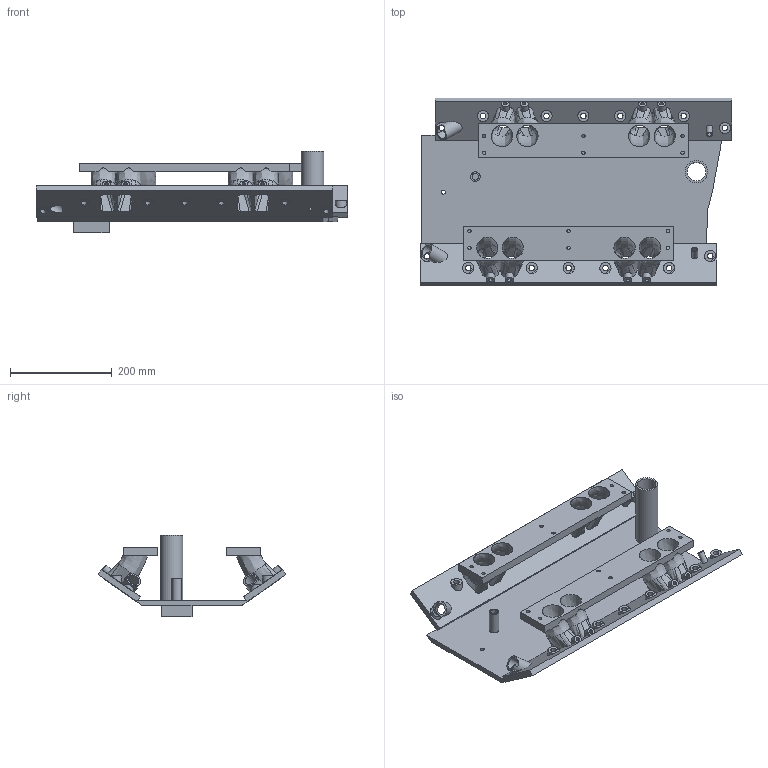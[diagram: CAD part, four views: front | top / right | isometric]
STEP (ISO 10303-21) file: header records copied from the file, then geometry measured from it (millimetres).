
FILE_DESCRIPTION(('Open CASCADE Model'),'2;1');
FILE_NAME('Open CASCADE Shape Model','2026-09-28T11:54:17',('Author'),( 'Open CASCADE'),'Open CASCADE STEP processor 8.0','build123d', 'Unknown');
FILE_SCHEMA(('AUTOMOTIVE_DESIGN { 1 0 10303 214 1 1 1 1 }'));
Length unit declared in the file: millimetre
Products named in the file (1): SOLID
Bounding box: 612 x 369.55 x 161 mm (x, y, z)
Volume: 3355385.1 mm3; surface area: 847592.1 mm2
Topology: 1 solids, 1 shells, 334 faces, 1038 edges, 686 vertices
Faces by surface type: bspline 168, plane 91, cylinder 75
Full cylindrical faces by diameter (mm): 6.8 x12, 7 x8, 8 x3, 11 x14, 12 x2, 13 x1, 19 x1, 22 x12, 23 x2, 30 x2, 36 x1, 44 x1
Entity records: 56128 total; most frequent: CARTESIAN_POINT 38573, DIRECTION 2355, ORIENTED_EDGE 2028, PCURVE 2028, DEFINITIONAL_REPRESENTATION 2028, B_SPLINE_CURVE_WITH_KNOTS 1367, LINE 1049, VECTOR 1049
